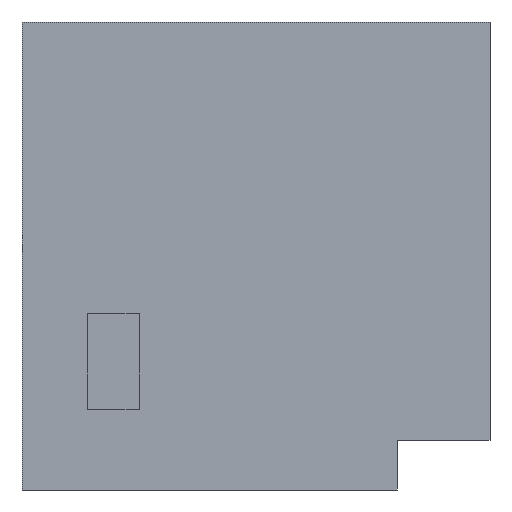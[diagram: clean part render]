
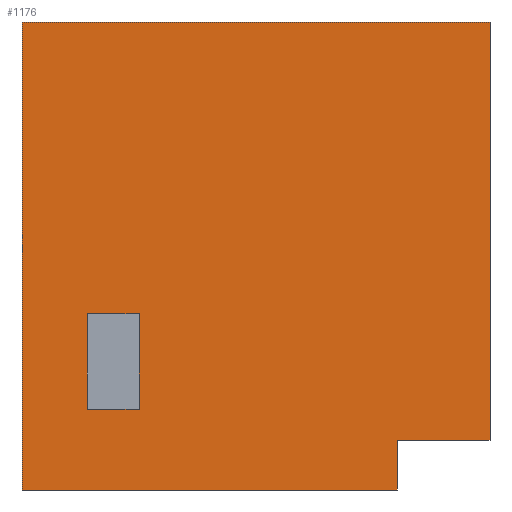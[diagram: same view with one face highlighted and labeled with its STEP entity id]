
A CAD part, front view. The second image highlights one B-rep face of the part: STEP entity #1176.
In plain terms, the highlighted planar face has unit normal (0, -1, 0).
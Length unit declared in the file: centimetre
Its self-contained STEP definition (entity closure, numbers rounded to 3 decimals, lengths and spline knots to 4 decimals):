
#64 = CARTESIAN_POINT ( 'NONE',  ( 1000., 0., 106.4048 ) ) ;
#97 = VECTOR ( 'NONE', #1028, 100. ) ;
#100 = CARTESIAN_POINT ( 'NONE',  ( 139.6458, 0., 377.0988 ) ) ;
#132 = VERTEX_POINT ( 'NONE', #220 ) ;
#151 = ORIENTED_EDGE ( 'NONE', *, *, #824, .T. ) ;
#199 = CARTESIAN_POINT ( 'NONE',  ( 139.6458, 0., 172.4599 ) ) ;
#210 = PLANE ( 'NONE',  #218 ) ;
#218 = AXIS2_PLACEMENT_3D ( 'NONE', #739, #614, #746 ) ;
#219 = FACE_OUTER_BOUND ( 'NONE', #502, .T. ) ;
#220 = CARTESIAN_POINT ( 'NONE',  ( 1000., 0., 1000. ) ) ;
#226 = EDGE_CURVE ( 'NONE', #1100, #132, #512, .T. ) ;
#258 = VECTOR ( 'NONE', #913, 100. ) ;
#260 = DIRECTION ( 'NONE',  ( 0., 0., -1. ) ) ;
#316 = LINE ( 'NONE', #1534, #678 ) ;
#323 = DIRECTION ( 'NONE',  ( 1., 0., 0. ) ) ;
#327 = VECTOR ( 'NONE', #1288, 100. ) ;
#341 = CARTESIAN_POINT ( 'NONE',  ( 1000., 0., 1000. ) ) ;
#391 = DIRECTION ( 'NONE',  ( 1., 0., 0. ) ) ;
#454 = EDGE_CURVE ( 'NONE', #1523, #1184, #1246, .T. ) ;
#481 = CARTESIAN_POINT ( 'NONE',  ( 139.6458, 0., 377.0988 ) ) ;
#502 = EDGE_LOOP ( 'NONE', ( #151, #1532, #1722, #1715, #1351, #549 ) ) ;
#512 = LINE ( 'NONE', #631, #820 ) ;
#526 = EDGE_CURVE ( 'NONE', #1184, #976, #898, .T. ) ;
#540 = ORIENTED_EDGE ( 'NONE', *, *, #526, .F. ) ;
#549 = ORIENTED_EDGE ( 'NONE', *, *, #1557, .T. ) ;
#614 = DIRECTION ( 'NONE',  ( 0., 1., 0. ) ) ;
#622 = VECTOR ( 'NONE', #1422, 100. ) ;
#629 = VECTOR ( 'NONE', #1611, 100. ) ;
#631 = CARTESIAN_POINT ( 'NONE',  ( 0., 0., 1000. ) ) ;
#669 = CARTESIAN_POINT ( 'NONE',  ( 250.4968, 0., 172.4599 ) ) ;
#678 = VECTOR ( 'NONE', #1527, 100. ) ;
#680 = EDGE_CURVE ( 'NONE', #1007, #729, #316, .T. ) ;
#701 = LINE ( 'NONE', #341, #97 ) ;
#729 = VERTEX_POINT ( 'NONE', #1040 ) ;
#739 = CARTESIAN_POINT ( 'NONE',  ( 0., 0., 1000. ) ) ;
#746 = DIRECTION ( 'NONE',  ( 0., 0., 1. ) ) ;
#783 = EDGE_LOOP ( 'NONE', ( #1489, #540, #1563, #813 ) ) ;
#813 = ORIENTED_EDGE ( 'NONE', *, *, #1268, .F. ) ;
#820 = VECTOR ( 'NONE', #391, 100. ) ;
#824 = EDGE_CURVE ( 'NONE', #1657, #1007, #1467, .T. ) ;
#860 = VERTEX_POINT ( 'NONE', #669 ) ;
#898 = LINE ( 'NONE', #1061, #1643 ) ;
#913 = DIRECTION ( 'NONE',  ( 0., 0., -1. ) ) ;
#958 = CARTESIAN_POINT ( 'NONE',  ( 0., 0., 0. ) ) ;
#969 = DIRECTION ( 'NONE',  ( 1., 0., 0. ) ) ;
#976 = VERTEX_POINT ( 'NONE', #199 ) ;
#1007 = VERTEX_POINT ( 'NONE', #1442 ) ;
#1009 = CARTESIAN_POINT ( 'NONE',  ( 802.1144, 0., 106.4048 ) ) ;
#1028 = DIRECTION ( 'NONE',  ( 0., 0., -1. ) ) ;
#1040 = CARTESIAN_POINT ( 'NONE',  ( 802.1144, 0., 106.4048 ) ) ;
#1061 = CARTESIAN_POINT ( 'NONE',  ( 139.6458, 0., 172.4599 ) ) ;
#1091 = EDGE_CURVE ( 'NONE', #132, #1449, #701, .T. ) ;
#1100 = VERTEX_POINT ( 'NONE', #1660 ) ;
#1117 = EDGE_CURVE ( 'NONE', #729, #1449, #1280, .T. ) ;
#1118 = VECTOR ( 'NONE', #969, 100. ) ;
#1133 = EDGE_CURVE ( 'NONE', #976, #860, #1141, .T. ) ;
#1141 = LINE ( 'NONE', #1686, #327 ) ;
#1176 = ADVANCED_FACE ( 'NONE', ( #1417, #219 ), #210, .F. ) ;
#1184 = VERTEX_POINT ( 'NONE', #481 ) ;
#1192 = CARTESIAN_POINT ( 'NONE',  ( 0., 0., 1000. ) ) ;
#1246 = LINE ( 'NONE', #100, #622 ) ;
#1268 = EDGE_CURVE ( 'NONE', #860, #1523, #1350, .T. ) ;
#1280 = LINE ( 'NONE', #1009, #1403 ) ;
#1288 = DIRECTION ( 'NONE',  ( 1., 0., 0. ) ) ;
#1297 = LINE ( 'NONE', #1192, #258 ) ;
#1350 = LINE ( 'NONE', #1388, #629 ) ;
#1351 = ORIENTED_EDGE ( 'NONE', *, *, #226, .F. ) ;
#1358 = CARTESIAN_POINT ( 'NONE',  ( 0., 0., 0. ) ) ;
#1388 = CARTESIAN_POINT ( 'NONE',  ( 250.4968, 0., 172.4599 ) ) ;
#1403 = VECTOR ( 'NONE', #323, 100. ) ;
#1417 = FACE_BOUND ( 'NONE', #783, .T. ) ;
#1422 = DIRECTION ( 'NONE',  ( -1., 0., 0. ) ) ;
#1432 = CARTESIAN_POINT ( 'NONE',  ( 250.4968, 0., 377.0988 ) ) ;
#1442 = CARTESIAN_POINT ( 'NONE',  ( 802.1144, 0., 0. ) ) ;
#1449 = VERTEX_POINT ( 'NONE', #64 ) ;
#1467 = LINE ( 'NONE', #958, #1118 ) ;
#1489 = ORIENTED_EDGE ( 'NONE', *, *, #1133, .F. ) ;
#1523 = VERTEX_POINT ( 'NONE', #1432 ) ;
#1527 = DIRECTION ( 'NONE',  ( 0., 0., 1. ) ) ;
#1532 = ORIENTED_EDGE ( 'NONE', *, *, #680, .T. ) ;
#1534 = CARTESIAN_POINT ( 'NONE',  ( 802.1144, 0., 0. ) ) ;
#1557 = EDGE_CURVE ( 'NONE', #1100, #1657, #1297, .T. ) ;
#1563 = ORIENTED_EDGE ( 'NONE', *, *, #454, .F. ) ;
#1611 = DIRECTION ( 'NONE',  ( 0., 0., 1. ) ) ;
#1643 = VECTOR ( 'NONE', #260, 100. ) ;
#1657 = VERTEX_POINT ( 'NONE', #1358 ) ;
#1660 = CARTESIAN_POINT ( 'NONE',  ( 0., 0., 1000. ) ) ;
#1686 = CARTESIAN_POINT ( 'NONE',  ( 139.6458, 0., 172.4599 ) ) ;
#1715 = ORIENTED_EDGE ( 'NONE', *, *, #1091, .F. ) ;
#1722 = ORIENTED_EDGE ( 'NONE', *, *, #1117, .T. ) ;
